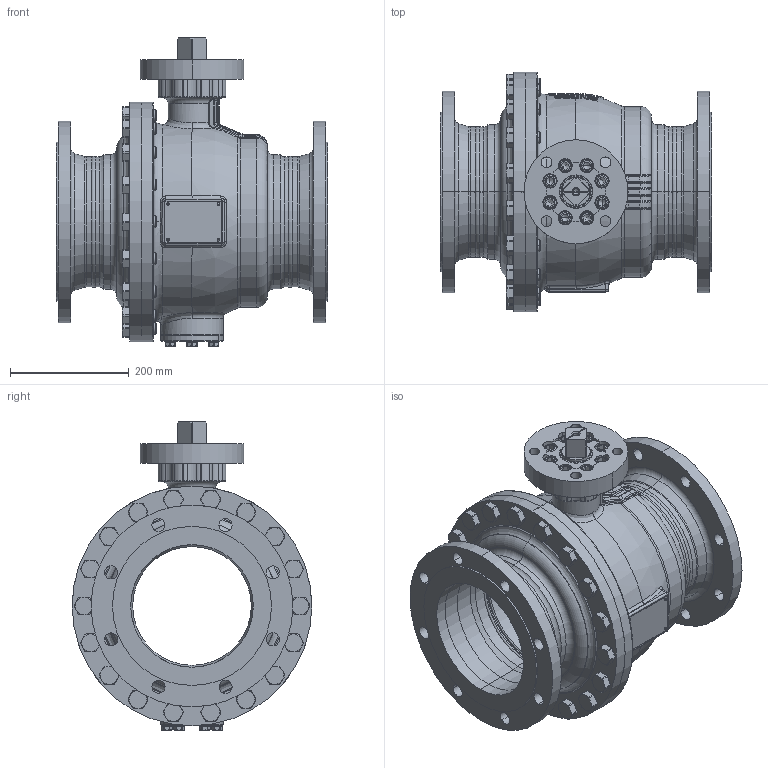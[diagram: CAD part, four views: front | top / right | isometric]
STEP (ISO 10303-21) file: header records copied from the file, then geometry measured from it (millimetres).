
FILE_DESCRIPTION((''),'2;1');
FILE_NAME('KHI-F_200_PN010-F14-4_SW0001','2026-02-05T12:49:15',('fischerkl'),('KLINGER'),'CREO PARAMETRIC BY PTC INC, 2023014','CREO PARAMETRIC BY PTC INC, 2023014','');
FILE_SCHEMA(('CONFIG_CONTROL_DESIGN'));
Products named in the file (1): KHI-F_200_PN010-F14-4_SW0001
Bounding box: 457 x 404 x 519.2 mm (x, y, z)
Volume: 12633636.6 mm3; surface area: 2234494.9 mm2
Topology: 1 solids, 4 shells, 3793 faces, 9706 edges, 6047 vertices
Faces by surface type: plane 2302, cylinder 702, cone 364, torus 287, bspline 108, sphere 30
Entity records: 147971 total; most frequent: CARTESIAN_POINT 58201, ORIENTED_EDGE 19360, DIRECTION 17831, EDGE_CURVE 9680, AXIS2_PLACEMENT_3D 6323, VERTEX_POINT 6047, VECTOR 5185, LINE 5185
